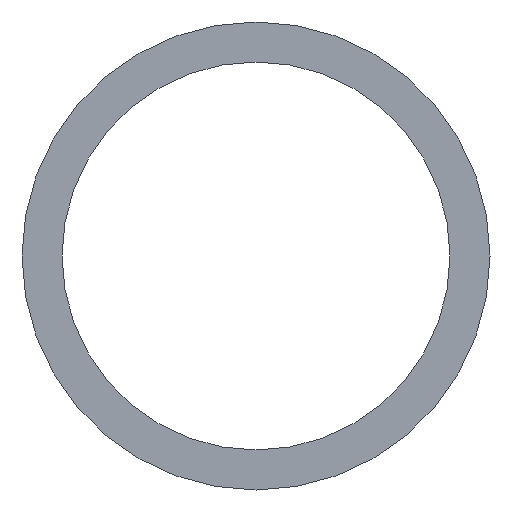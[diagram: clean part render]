
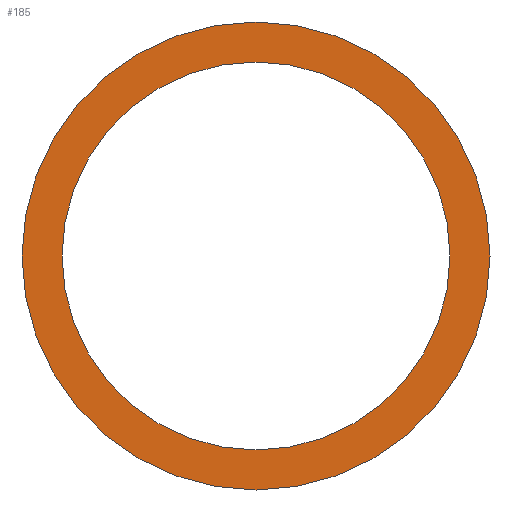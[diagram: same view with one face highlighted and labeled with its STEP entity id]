
A CAD part, front view. The second image highlights one B-rep face of the part: STEP entity #185.
In plain terms, the highlighted planar face has unit normal (0, -1, 0).
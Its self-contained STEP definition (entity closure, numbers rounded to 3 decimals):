
#18 = CARTESIAN_POINT ( 'NONE',  ( 6085., -8198., 5775.85 ) ) ;
#19 = CIRCLE ( 'NONE', #169, 13.45 ) ;
#20 = EDGE_CURVE ( 'NONE', #181, #150, #177, .T. ) ;
#30 = ORIENTED_EDGE ( 'NONE', *, *, #201, .T. ) ;
#31 = ORIENTED_EDGE ( 'NONE', *, *, #20, .F. ) ;
#34 = AXIS2_PLACEMENT_3D ( 'NONE', #18, #204, #102 ) ;
#39 = CARTESIAN_POINT ( 'NONE',  ( 6085., -8198., 5775.85 ) ) ;
#42 = CARTESIAN_POINT ( 'NONE',  ( 6085., -8198., 5762.4 ) ) ;
#44 = ORIENTED_EDGE ( 'NONE', *, *, #106, .T. ) ;
#54 = DIRECTION ( 'NONE',  ( 0., 0., 1. ) ) ;
#55 = DIRECTION ( 'NONE',  ( 0., 1., 0. ) ) ;
#61 = EDGE_LOOP ( 'NONE', ( #30, #44 ) ) ;
#73 = FACE_OUTER_BOUND ( 'NONE', #82, .T. ) ;
#75 = CARTESIAN_POINT ( 'NONE',  ( 6085., -8198., 5764.7 ) ) ;
#82 = EDGE_LOOP ( 'NONE', ( #198, #31 ) ) ;
#90 = AXIS2_PLACEMENT_3D ( 'NONE', #189, #139, #138 ) ;
#91 = CIRCLE ( 'NONE', #90, 11.15 ) ;
#98 = CIRCLE ( 'NONE', #141, 11.15 ) ;
#102 = DIRECTION ( 'NONE',  ( 0., 0., 1. ) ) ;
#106 = EDGE_CURVE ( 'NONE', #213, #130, #91, .T. ) ;
#110 = DIRECTION ( 'NONE',  ( 0., 0., 1. ) ) ;
#128 = FACE_BOUND ( 'NONE', #61, .T. ) ;
#130 = VERTEX_POINT ( 'NONE', #75 ) ;
#138 = DIRECTION ( 'NONE',  ( 0., 0., 1. ) ) ;
#139 = DIRECTION ( 'NONE',  ( 0., 1., 0. ) ) ;
#141 = AXIS2_PLACEMENT_3D ( 'NONE', #39, #194, #110 ) ;
#142 = CARTESIAN_POINT ( 'NONE',  ( 6085., -8198., 5775.85 ) ) ;
#150 = VERTEX_POINT ( 'NONE', #42 ) ;
#155 = CARTESIAN_POINT ( 'NONE',  ( 6085., -8198., 5787. ) ) ;
#159 = DIRECTION ( 'NONE',  ( 0., 0., 1. ) ) ;
#164 = AXIS2_PLACEMENT_3D ( 'NONE', #142, #55, #159 ) ;
#169 = AXIS2_PLACEMENT_3D ( 'NONE', #210, #207, #54 ) ;
#177 = CIRCLE ( 'NONE', #34, 13.45 ) ;
#180 = PLANE ( 'NONE',  #164 ) ;
#181 = VERTEX_POINT ( 'NONE', #195 ) ;
#185 = ADVANCED_FACE ( 'NONE', ( #73, #128 ), #180, .F. ) ;
#189 = CARTESIAN_POINT ( 'NONE',  ( 6085., -8198., 5775.85 ) ) ;
#192 = EDGE_CURVE ( 'NONE', #150, #181, #19, .T. ) ;
#194 = DIRECTION ( 'NONE',  ( 0., 1., 0. ) ) ;
#195 = CARTESIAN_POINT ( 'NONE',  ( 6085., -8198., 5789.3 ) ) ;
#198 = ORIENTED_EDGE ( 'NONE', *, *, #192, .F. ) ;
#201 = EDGE_CURVE ( 'NONE', #130, #213, #98, .T. ) ;
#204 = DIRECTION ( 'NONE',  ( 0., 1., 0. ) ) ;
#207 = DIRECTION ( 'NONE',  ( 0., 1., 0. ) ) ;
#210 = CARTESIAN_POINT ( 'NONE',  ( 6085., -8198., 5775.85 ) ) ;
#213 = VERTEX_POINT ( 'NONE', #155 ) ;
